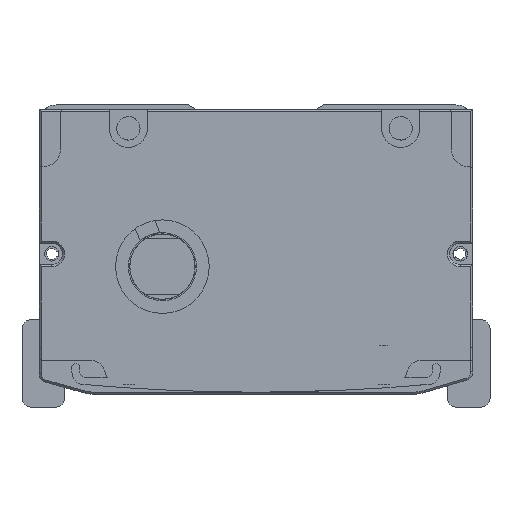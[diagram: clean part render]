
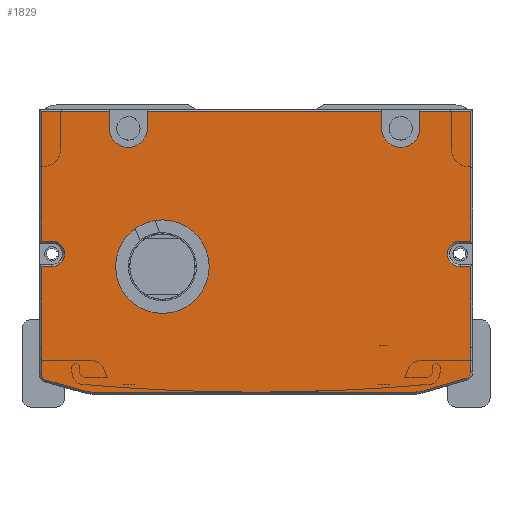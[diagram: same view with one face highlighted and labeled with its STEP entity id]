
A CAD part, front view. The second image highlights one B-rep face of the part: STEP entity #1829.
In plain terms, the highlighted planar face has unit normal (0, -1, 0).
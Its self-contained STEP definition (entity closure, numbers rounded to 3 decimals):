
#1066=FACE_BOUND('',#3755,.T.);
#1067=FACE_BOUND('',#3756,.T.);
#1829=ADVANCED_FACE('',(#1066,#1067),#2572,.F.);
#2572=PLANE('',#15094);
#3755=EDGE_LOOP('',(#6793));
#3756=EDGE_LOOP('',(#6794,#6795,#6796,#6797,#6798,#6799,#6800,#6801,#6802,
#6803,#6804,#6805,#6806,#6807,#6808,#6809,#6810,#6811,#6812,#6813,#6814,
#6815,#6816,#6817,#6818,#6819,#6820,#6821));
#4833=CIRCLE('',#15005,3.);
#4836=CIRCLE('',#15013,3.);
#4839=CIRCLE('',#15025,1.5);
#4841=CIRCLE('',#15029,9.5);
#4843=CIRCLE('',#15033,9.5);
#4845=CIRCLE('',#15037,1.5);
#4850=CIRCLE('',#15052,4.5);
#4854=CIRCLE('',#15058,4.5);
#4855=CIRCLE('',#15067,11.);
#6793=ORIENTED_EDGE('',*,*,#11464,.F.);
#6794=ORIENTED_EDGE('',*,*,#11358,.T.);
#6795=ORIENTED_EDGE('',*,*,#11254,.T.);
#6796=ORIENTED_EDGE('',*,*,#11445,.T.);
#6797=ORIENTED_EDGE('',*,*,#11258,.T.);
#6798=ORIENTED_EDGE('',*,*,#11493,.T.);
#6799=ORIENTED_EDGE('',*,*,#11264,.T.);
#6800=ORIENTED_EDGE('',*,*,#11441,.T.);
#6801=ORIENTED_EDGE('',*,*,#11268,.T.);
#6802=ORIENTED_EDGE('',*,*,#11494,.T.);
#6803=ORIENTED_EDGE('',*,*,#11362,.T.);
#6804=ORIENTED_EDGE('',*,*,#11368,.T.);
#6805=ORIENTED_EDGE('',*,*,#11371,.T.);
#6806=ORIENTED_EDGE('',*,*,#11374,.T.);
#6807=ORIENTED_EDGE('',*,*,#11376,.T.);
#6808=ORIENTED_EDGE('',*,*,#11406,.T.);
#6809=ORIENTED_EDGE('',*,*,#11410,.T.);
#6810=ORIENTED_EDGE('',*,*,#11413,.T.);
#6811=ORIENTED_EDGE('',*,*,#11416,.T.);
#6812=ORIENTED_EDGE('',*,*,#11419,.T.);
#6813=ORIENTED_EDGE('',*,*,#11422,.T.);
#6814=ORIENTED_EDGE('',*,*,#11425,.T.);
#6815=ORIENTED_EDGE('',*,*,#11427,.T.);
#6816=ORIENTED_EDGE('',*,*,#11404,.T.);
#6817=ORIENTED_EDGE('',*,*,#11394,.T.);
#6818=ORIENTED_EDGE('',*,*,#11391,.T.);
#6819=ORIENTED_EDGE('',*,*,#11388,.T.);
#6820=ORIENTED_EDGE('',*,*,#11385,.T.);
#6821=ORIENTED_EDGE('',*,*,#11380,.T.);
#9735=VERTEX_POINT('',#22311);
#9736=VERTEX_POINT('',#22313);
#9739=VERTEX_POINT('',#22320);
#9740=VERTEX_POINT('',#22322);
#9745=VERTEX_POINT('',#22333);
#9746=VERTEX_POINT('',#22335);
#9749=VERTEX_POINT('',#22342);
#9750=VERTEX_POINT('',#22344);
#9808=VERTEX_POINT('',#22530);
#9811=VERTEX_POINT('',#22538);
#9812=VERTEX_POINT('',#22539);
#9817=VERTEX_POINT('',#22550);
#9819=VERTEX_POINT('',#22556);
#9820=VERTEX_POINT('',#22561);
#9822=VERTEX_POINT('',#22567);
#9825=VERTEX_POINT('',#22575);
#9827=VERTEX_POINT('',#22581);
#9829=VERTEX_POINT('',#22587);
#9831=VERTEX_POINT('',#22593);
#9833=VERTEX_POINT('',#22599);
#9840=VERTEX_POINT('',#22623);
#9841=VERTEX_POINT('',#22627);
#9844=VERTEX_POINT('',#22634);
#9846=VERTEX_POINT('',#22640);
#9848=VERTEX_POINT('',#22646);
#9850=VERTEX_POINT('',#22652);
#9852=VERTEX_POINT('',#22658);
#9854=VERTEX_POINT('',#22664);
#9866=VERTEX_POINT('',#22737);
#11254=EDGE_CURVE('',#9736,#9735,#12935,.T.);
#11258=EDGE_CURVE('',#9740,#9739,#12939,.T.);
#11264=EDGE_CURVE('',#9746,#9745,#12945,.T.);
#11268=EDGE_CURVE('',#9750,#9749,#12949,.T.);
#11358=EDGE_CURVE('',#9808,#9736,#13022,.T.);
#11362=EDGE_CURVE('',#9811,#9812,#13026,.T.);
#11368=EDGE_CURVE('',#9812,#9817,#13032,.T.);
#11371=EDGE_CURVE('',#9817,#9819,#4833,.T.);
#11374=EDGE_CURVE('',#9819,#9820,#13036,.T.);
#11376=EDGE_CURVE('',#9820,#9822,#13038,.T.);
#11380=EDGE_CURVE('',#9825,#9808,#13042,.T.);
#11385=EDGE_CURVE('',#9827,#9825,#13047,.T.);
#11388=EDGE_CURVE('',#9829,#9827,#4836,.T.);
#11391=EDGE_CURVE('',#9831,#9829,#13051,.T.);
#11394=EDGE_CURVE('',#9833,#9831,#13054,.T.);
#11404=EDGE_CURVE('',#9840,#9833,#13062,.T.);
#11406=EDGE_CURVE('',#9822,#9841,#13064,.T.);
#11410=EDGE_CURVE('',#9841,#9844,#4839,.T.);
#11413=EDGE_CURVE('',#9844,#9846,#13069,.T.);
#11416=EDGE_CURVE('',#9846,#9848,#4841,.T.);
#11419=EDGE_CURVE('',#9848,#9850,#13073,.T.);
#11422=EDGE_CURVE('',#9850,#9852,#4843,.T.);
#11425=EDGE_CURVE('',#9852,#9854,#13077,.T.);
#11427=EDGE_CURVE('',#9854,#9840,#4845,.T.);
#11441=EDGE_CURVE('',#9745,#9750,#4850,.T.);
#11445=EDGE_CURVE('',#9735,#9740,#4854,.T.);
#11464=EDGE_CURVE('',#9866,#9866,#4855,.T.);
#11493=EDGE_CURVE('',#9739,#9746,#13128,.T.);
#11494=EDGE_CURVE('',#9749,#9811,#13129,.T.);
#12935=LINE('',#22312,#13881);
#12939=LINE('',#22321,#13885);
#12945=LINE('',#22334,#13891);
#12949=LINE('',#22343,#13895);
#13022=LINE('',#22529,#13968);
#13026=LINE('',#22537,#13972);
#13032=LINE('',#22551,#13978);
#13036=LINE('',#22563,#13982);
#13038=LINE('',#22566,#13984);
#13042=LINE('',#22574,#13988);
#13047=LINE('',#22584,#13993);
#13051=LINE('',#22596,#13997);
#13054=LINE('',#22602,#14000);
#13062=LINE('',#22622,#14008);
#13064=LINE('',#22626,#14010);
#13069=LINE('',#22641,#14015);
#13073=LINE('',#22653,#14019);
#13077=LINE('',#22665,#14023);
#13128=LINE('',#22799,#14074);
#13129=LINE('',#22800,#14075);
#13881=VECTOR('',#17317,1.);
#13885=VECTOR('',#17323,1.);
#13891=VECTOR('',#17331,1.);
#13895=VECTOR('',#17337,1.);
#13968=VECTOR('',#17504,1.);
#13972=VECTOR('',#17510,1.);
#13978=VECTOR('',#17518,1.);
#13982=VECTOR('',#17530,1.);
#13984=VECTOR('',#17534,1.);
#13988=VECTOR('',#17540,1.);
#13993=VECTOR('',#17547,1.);
#13997=VECTOR('',#17559,1.);
#14000=VECTOR('',#17564,1.);
#14008=VECTOR('',#17586,1.);
#14010=VECTOR('',#17590,1.);
#14015=VECTOR('',#17603,1.);
#14019=VECTOR('',#17615,1.);
#14023=VECTOR('',#17627,1.);
#14074=VECTOR('',#17794,1.);
#14075=VECTOR('',#17795,1.);
#15005=AXIS2_PLACEMENT_3D('',#22557,#17523,#17524);
#15013=AXIS2_PLACEMENT_3D('',#22590,#17553,#17554);
#15025=AXIS2_PLACEMENT_3D('',#22635,#17596,#17597);
#15029=AXIS2_PLACEMENT_3D('',#22647,#17608,#17609);
#15033=AXIS2_PLACEMENT_3D('',#22659,#17620,#17621);
#15037=AXIS2_PLACEMENT_3D('',#22668,#17631,#17632);
#15052=AXIS2_PLACEMENT_3D('',#22694,#17670,#17671);
#15058=AXIS2_PLACEMENT_3D('',#22702,#17682,#17683);
#15067=AXIS2_PLACEMENT_3D('',#22736,#17718,#17719);
#15094=AXIS2_PLACEMENT_3D('',#22801,#17796,#17797);
#17317=DIRECTION('',(0.,0.,-1.));
#17323=DIRECTION('',(0.,0.,1.));
#17331=DIRECTION('',(0.,0.,-1.));
#17337=DIRECTION('',(0.,0.,1.));
#17504=DIRECTION('',(-1.,0.,0.));
#17510=DIRECTION('',(0.,0.,-1.));
#17518=DIRECTION('',(1.,0.,0.));
#17523=DIRECTION('',(0.,1.,0.));
#17524=DIRECTION('',(0.,0.,1.));
#17530=DIRECTION('',(-1.,0.,0.));
#17534=DIRECTION('',(0.,0.,-1.));
#17540=DIRECTION('',(0.,0.,1.));
#17547=DIRECTION('',(1.,0.,0.));
#17553=DIRECTION('',(0.,1.,0.));
#17554=DIRECTION('',(0.,0.,1.));
#17559=DIRECTION('',(-1.,0.,0.));
#17564=DIRECTION('',(0.,0.,1.));
#17586=DIRECTION('',(0.,0.,1.));
#17590=DIRECTION('',(0.,0.,-1.));
#17596=DIRECTION('',(0.,-1.,0.));
#17597=DIRECTION('',(0.,0.,1.));
#17603=DIRECTION('',(0.963,0.,-0.269));
#17608=DIRECTION('',(0.,-1.,0.));
#17609=DIRECTION('',(0.,0.,1.));
#17615=DIRECTION('',(1.,0.,0.));
#17620=DIRECTION('',(0.,-1.,0.));
#17621=DIRECTION('',(0.,0.,1.));
#17627=DIRECTION('',(0.959,0.,0.282));
#17631=DIRECTION('',(0.,-1.,0.));
#17632=DIRECTION('',(0.,0.,1.));
#17670=DIRECTION('',(0.,1.,0.));
#17671=DIRECTION('',(0.,0.,1.));
#17682=DIRECTION('',(0.,1.,0.));
#17683=DIRECTION('',(0.,0.,1.));
#17718=DIRECTION('',(0.,-1.,0.));
#17719=DIRECTION('',(0.,0.,1.));
#17794=DIRECTION('',(-1.,0.,0.));
#17795=DIRECTION('',(-1.,0.,0.));
#17796=DIRECTION('',(0.,1.,0.));
#17797=DIRECTION('',(1.,0.,0.));
#22311=CARTESIAN_POINT('',(35.308,-807.5,-5.5));
#22312=CARTESIAN_POINT('',(35.308,-807.5,-1.));
#22313=CARTESIAN_POINT('',(35.308,-807.5,-1.5));
#22320=CARTESIAN_POINT('',(26.308,-807.5,-1.5));
#22321=CARTESIAN_POINT('',(26.308,-807.5,-1.));
#22322=CARTESIAN_POINT('',(26.308,-807.5,-5.5));
#22333=CARTESIAN_POINT('',(-28.692,-807.5,-5.5));
#22334=CARTESIAN_POINT('',(-28.692,-807.5,-1.));
#22335=CARTESIAN_POINT('',(-28.692,-807.5,-1.5));
#22342=CARTESIAN_POINT('',(-37.692,-807.5,-1.5));
#22343=CARTESIAN_POINT('',(-37.692,-807.5,-1.));
#22344=CARTESIAN_POINT('',(-37.692,-807.5,-5.5));
#22529=CARTESIAN_POINT('',(-53.692,-807.5,-1.5));
#22530=CARTESIAN_POINT('',(47.308,-807.5,-1.5));
#22537=CARTESIAN_POINT('',(-53.692,-807.5,-32.5));
#22538=CARTESIAN_POINT('',(-53.692,-807.5,-1.5));
#22539=CARTESIAN_POINT('',(-53.692,-807.5,-32.));
#22550=CARTESIAN_POINT('',(-51.192,-807.5,-32.));
#22551=CARTESIAN_POINT('',(-3.192,-807.5,-32.));
#22556=CARTESIAN_POINT('',(-51.192,-807.5,-38.));
#22557=CARTESIAN_POINT('',(-51.192,-807.5,-35.));
#22561=CARTESIAN_POINT('',(-53.692,-807.5,-38.));
#22563=CARTESIAN_POINT('',(-3.192,-807.5,-38.));
#22566=CARTESIAN_POINT('',(-53.692,-807.5,-57.));
#22567=CARTESIAN_POINT('',(-53.692,-807.5,-57.));
#22574=CARTESIAN_POINT('',(47.308,-807.5,-1.5));
#22575=CARTESIAN_POINT('',(47.308,-807.5,-32.));
#22581=CARTESIAN_POINT('',(44.808,-807.5,-32.));
#22584=CARTESIAN_POINT('',(-3.192,-807.5,-32.));
#22587=CARTESIAN_POINT('',(44.808,-807.5,-38.));
#22590=CARTESIAN_POINT('',(44.808,-807.5,-35.));
#22593=CARTESIAN_POINT('',(47.308,-807.5,-38.));
#22596=CARTESIAN_POINT('',(-3.192,-807.5,-38.));
#22599=CARTESIAN_POINT('',(47.308,-807.5,-57.));
#22602=CARTESIAN_POINT('',(47.308,-807.5,-37.5));
#22622=CARTESIAN_POINT('',(47.308,-807.5,-37.5));
#22623=CARTESIAN_POINT('',(47.308,-807.5,-62.758));
#22626=CARTESIAN_POINT('',(-53.692,-807.5,-59.712));
#22627=CARTESIAN_POINT('',(-53.692,-807.5,-63.212));
#22634=CARTESIAN_POINT('',(-52.596,-807.5,-64.657));
#22635=CARTESIAN_POINT('',(-52.192,-807.5,-63.212));
#22640=CARTESIAN_POINT('',(-43.674,-807.5,-67.15));
#22641=CARTESIAN_POINT('',(-43.674,-807.5,-67.15));
#22646=CARTESIAN_POINT('',(-41.118,-807.5,-67.5));
#22647=CARTESIAN_POINT('',(-41.118,-807.5,-58.));
#22652=CARTESIAN_POINT('',(33.631,-807.5,-67.5));
#22653=CARTESIAN_POINT('',(33.631,-807.5,-67.5));
#22658=CARTESIAN_POINT('',(36.312,-807.5,-67.114));
#22659=CARTESIAN_POINT('',(33.631,-807.5,-58.));
#22664=CARTESIAN_POINT('',(46.231,-807.5,-64.197));
#22665=CARTESIAN_POINT('',(46.231,-807.5,-64.197));
#22668=CARTESIAN_POINT('',(45.808,-807.5,-62.758));
#22694=CARTESIAN_POINT('',(-33.192,-807.5,-5.5));
#22702=CARTESIAN_POINT('',(30.808,-807.5,-5.5));
#22736=CARTESIAN_POINT('',(-25.192,-807.5,-38.));
#22737=CARTESIAN_POINT('',(-25.192,-807.5,-27.));
#22799=CARTESIAN_POINT('',(-53.692,-807.5,-1.5));
#22800=CARTESIAN_POINT('',(-53.692,-807.5,-1.5));
#22801=CARTESIAN_POINT('',(-3.192,-807.5,-1.));
